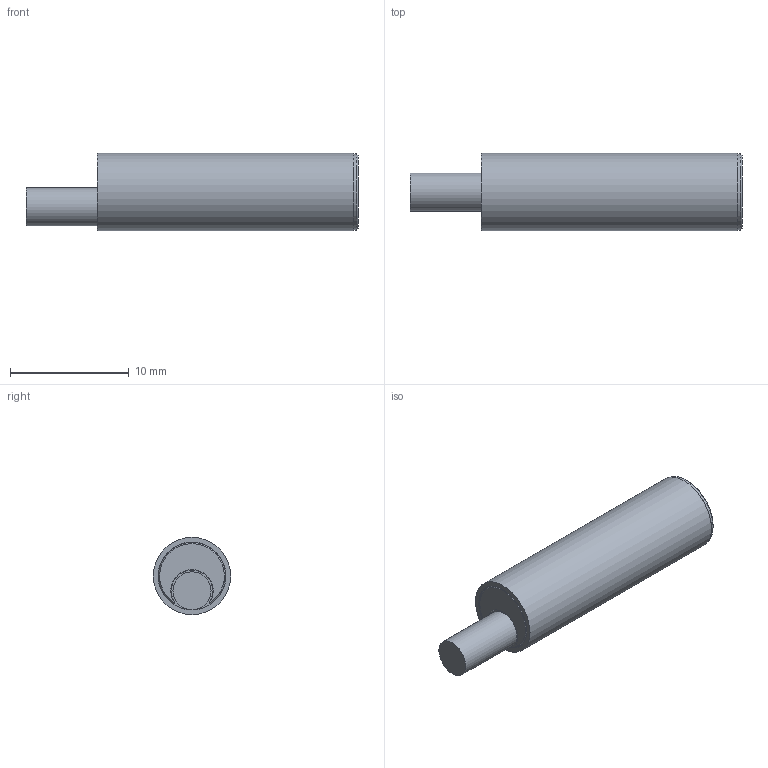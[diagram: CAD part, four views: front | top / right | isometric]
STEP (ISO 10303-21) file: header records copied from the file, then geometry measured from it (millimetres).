
FILE_DESCRIPTION( ( 'Unknown' ), '1' );
FILE_NAME( '//server-file-1/e_me/Solid Edge/Models/Dokumentationen/induktiv/IxRx 06/Vereinfachte Modelle/Neutralformate/IFRM 06xxx13_L.stp', 'Unknown', ( 'Unknown' ), ( 'Unknown' ), 'XStep 1.0', 'Unknown', ' ' );
FILE_SCHEMA( ( 'CONFIG_CONTROL_DESIGN' ) );
Length unit declared in the file: millimetre
Products named in the file (1): 132120
Bounding box: 27.95 x 6.5 x 6.5 mm (x, y, z)
Volume: 775.9 mm3; surface area: 577.6 mm2
Topology: 1 solids, 1 shells, 17 faces, 35 edges, 24 vertices
Faces by surface type: plane 10, cylinder 4, cone 3
Full cylindrical faces by diameter (mm): 3.2 x1, 5.7 x1, 6.4 x1, 6.5 x1
Entity records: 456 total; most frequent: CARTESIAN_POINT 84, DIRECTION 70, ORIENTED_EDGE 54, AXIS2_PLACEMENT_3D 31, EDGE_CURVE 27, EDGE_LOOP 26, FACE_OUTER_BOUND 21, VERTEX_POINT 21
